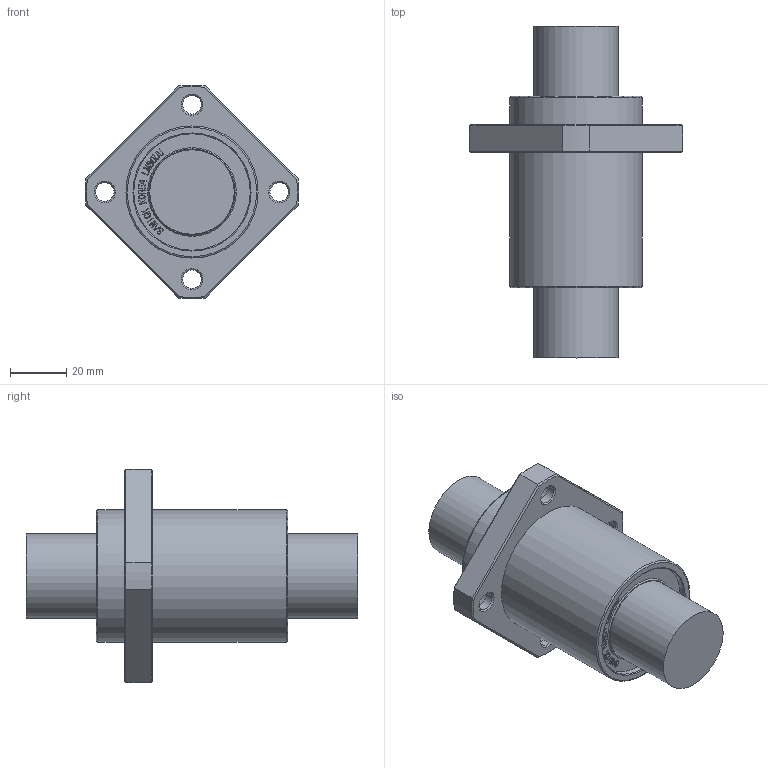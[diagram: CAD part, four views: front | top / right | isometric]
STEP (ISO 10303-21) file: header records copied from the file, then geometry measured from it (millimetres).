
FILE_DESCRIPTION(/* description */ (''),/* implementation_level */ '2;1');
FILE_NAME(/* name */ 'W:\(01) 2024년 홈페이지 CAD파일 최신화\LMEKP\IPT\LMEKP30UU.stp',/* time_stamp */ '2025-01-25T12:55:57+09:00',/* author */ ('서우현'),/* organization */ (''),/* preprocessor_version */ 'ST-DEVELOPER v17.2',/* originating_system */ 'Autodesk Inventor 2019',/* authorisation */ '');
FILE_SCHEMA (('AUTOMOTIVE_DESIGN { 1 0 10303 214 3 1 1 }'));
Length unit declared in the file: millimetre
Products named in the file (1): LM5
Bounding box: 75.93 x 118 x 75.93 mm (x, y, z)
Volume: 165206.7 mm3; surface area: 24193 mm2
Topology: 1 solids, 1 shells, 890 faces, 2496 edges, 1664 vertices
Faces by surface type: bspline 616, plane 234, cone 20, cylinder 18, torus 2
Full cylindrical faces by diameter (mm): 6.6 x4, 11 x4, 30 x2, 41.4 x2, 47 x2
Entity records: 30543 total; most frequent: CARTESIAN_POINT 11351, ORIENTED_EDGE 4992, EDGE_CURVE 2496, DIRECTION 1888, VERTEX_POINT 1664, B_SPLINE_CURVE_WITH_KNOTS 1232, LINE 1158, VECTOR 1158
